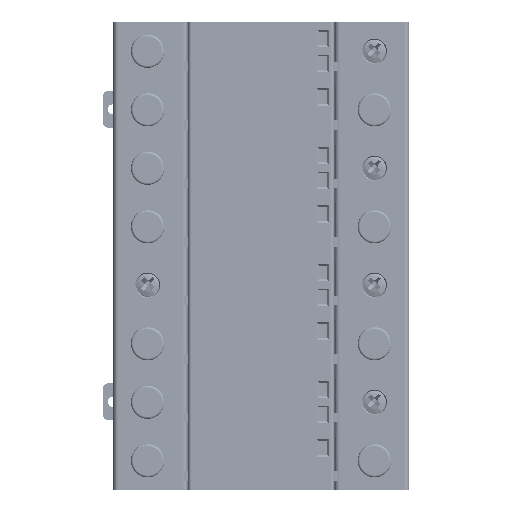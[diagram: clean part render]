
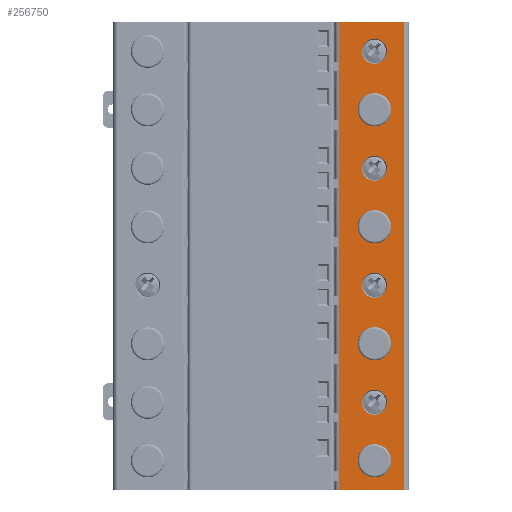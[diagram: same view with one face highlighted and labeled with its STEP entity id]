
A CAD part, front view. The second image highlights one B-rep face of the part: STEP entity #256750.
In plain terms, the highlighted planar face has unit normal (0, -1, 0).
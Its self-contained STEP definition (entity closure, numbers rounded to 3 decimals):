
#18020=DIRECTION('',(-1.,0.,0.));
#18021=VECTOR('',#18020,19.9);
#18022=CARTESIAN_POINT('',(89.5,0.,-144.4));
#18023=LINE('',#18022,#18021);
#18024=DIRECTION('',(1.,0.,0.));
#18025=VECTOR('',#18024,19.9);
#18026=CARTESIAN_POINT('',(69.6,0.,-0.4));
#18027=LINE('',#18026,#18025);
#18028=CARTESIAN_POINT('',(80.4,0.,-117.4));
#18029=DIRECTION('',(0.,-1.,0.));
#18030=DIRECTION('',(1.,0.,0.));
#18031=AXIS2_PLACEMENT_3D('',#18028,#18029,#18030);
#18033=CARTESIAN_POINT('',(80.4,0.,-117.4));
#18034=DIRECTION('',(0.,-1.,0.));
#18035=DIRECTION('',(-1.,0.,0.));
#18036=AXIS2_PLACEMENT_3D('',#18033,#18034,#18035);
#18038=CARTESIAN_POINT('',(80.4,0.,-81.4));
#18039=DIRECTION('',(0.,-1.,0.));
#18040=DIRECTION('',(1.,0.,0.));
#18041=AXIS2_PLACEMENT_3D('',#18038,#18039,#18040);
#18043=CARTESIAN_POINT('',(80.4,0.,-81.4));
#18044=DIRECTION('',(0.,-1.,0.));
#18045=DIRECTION('',(-1.,0.,0.));
#18046=AXIS2_PLACEMENT_3D('',#18043,#18044,#18045);
#18048=CARTESIAN_POINT('',(80.4,0.,-45.4));
#18049=DIRECTION('',(0.,-1.,0.));
#18050=DIRECTION('',(1.,0.,0.));
#18051=AXIS2_PLACEMENT_3D('',#18048,#18049,#18050);
#18053=CARTESIAN_POINT('',(80.4,0.,-45.4));
#18054=DIRECTION('',(0.,-1.,0.));
#18055=DIRECTION('',(-1.,0.,0.));
#18056=AXIS2_PLACEMENT_3D('',#18053,#18054,#18055);
#18058=CARTESIAN_POINT('',(80.4,0.,-9.4));
#18059=DIRECTION('',(0.,-1.,0.));
#18060=DIRECTION('',(1.,0.,0.));
#18061=AXIS2_PLACEMENT_3D('',#18058,#18059,#18060);
#18063=CARTESIAN_POINT('',(80.4,0.,-9.4));
#18064=DIRECTION('',(0.,-1.,0.));
#18065=DIRECTION('',(-1.,0.,0.));
#18066=AXIS2_PLACEMENT_3D('',#18063,#18064,#18065);
#18068=CARTESIAN_POINT('',(80.4,0.,-27.4));
#18069=DIRECTION('',(0.,1.,0.));
#18070=DIRECTION('',(1.,0.,0.));
#18071=AXIS2_PLACEMENT_3D('',#18068,#18069,#18070);
#18073=CARTESIAN_POINT('',(80.4,0.,-27.4));
#18074=DIRECTION('',(0.,1.,0.));
#18075=DIRECTION('',(-1.,0.,0.));
#18076=AXIS2_PLACEMENT_3D('',#18073,#18074,#18075);
#18078=CARTESIAN_POINT('',(80.4,0.,-63.4));
#18079=DIRECTION('',(0.,1.,0.));
#18080=DIRECTION('',(1.,0.,0.));
#18081=AXIS2_PLACEMENT_3D('',#18078,#18079,#18080);
#18083=CARTESIAN_POINT('',(80.4,0.,-63.4));
#18084=DIRECTION('',(0.,1.,0.));
#18085=DIRECTION('',(-1.,0.,0.));
#18086=AXIS2_PLACEMENT_3D('',#18083,#18084,#18085);
#18088=CARTESIAN_POINT('',(80.4,0.,-99.4));
#18089=DIRECTION('',(0.,1.,0.));
#18090=DIRECTION('',(1.,0.,0.));
#18091=AXIS2_PLACEMENT_3D('',#18088,#18089,#18090);
#18093=CARTESIAN_POINT('',(80.4,0.,-99.4));
#18094=DIRECTION('',(0.,1.,0.));
#18095=DIRECTION('',(-1.,0.,0.));
#18096=AXIS2_PLACEMENT_3D('',#18093,#18094,#18095);
#18098=CARTESIAN_POINT('',(80.4,0.,-135.4));
#18099=DIRECTION('',(0.,1.,0.));
#18100=DIRECTION('',(1.,0.,0.));
#18101=AXIS2_PLACEMENT_3D('',#18098,#18099,#18100);
#18103=CARTESIAN_POINT('',(80.4,0.,-135.4));
#18104=DIRECTION('',(0.,1.,0.));
#18105=DIRECTION('',(-1.,0.,0.));
#18106=AXIS2_PLACEMENT_3D('',#18103,#18104,#18105);
#18112=DIRECTION('',(0.,0.,1.));
#18113=VECTOR('',#18112,144.);
#18114=CARTESIAN_POINT('',(89.5,0.,-144.4));
#18115=LINE('',#18114,#18113);
#18236=DIRECTION('',(0.,0.,-1.));
#18237=VECTOR('',#18236,144.);
#18238=CARTESIAN_POINT('',(69.6,0.,-0.4));
#18239=LINE('',#18238,#18237);
#183218=CARTESIAN_POINT('',(89.5,0.,-0.4));
#183219=VERTEX_POINT('',#183218);
#184567=CARTESIAN_POINT('',(84.25,0.,-9.4));
#184569=VERTEX_POINT('',#184567);
#184574=CARTESIAN_POINT('',(76.55,0.,-9.4));
#184575=VERTEX_POINT('',#184574);
#185257=CARTESIAN_POINT('',(69.6,0.,-0.4));
#185259=VERTEX_POINT('',#185257);
#198457=CARTESIAN_POINT('',(76.55,0.,-45.4));
#198458=VERTEX_POINT('',#198457);
#198459=CARTESIAN_POINT('',(84.25,0.,-45.4));
#198460=VERTEX_POINT('',#198459);
#202805=CARTESIAN_POINT('',(76.55,0.,-81.4));
#202806=VERTEX_POINT('',#202805);
#202807=CARTESIAN_POINT('',(84.25,0.,-81.4));
#202808=VERTEX_POINT('',#202807);
#207157=CARTESIAN_POINT('',(76.55,0.,-117.4));
#207158=VERTEX_POINT('',#207157);
#207159=CARTESIAN_POINT('',(84.25,0.,-117.4));
#207160=VERTEX_POINT('',#207159);
#208767=CARTESIAN_POINT('',(89.5,0.,-144.4));
#208769=VERTEX_POINT('',#208767);
#209802=CARTESIAN_POINT('',(69.6,0.,-144.4));
#209804=VERTEX_POINT('',#209802);
#235181=CARTESIAN_POINT('',(85.55,0.,-27.4));
#235182=CARTESIAN_POINT('',(75.25,0.,-27.4));
#235183=VERTEX_POINT('',#235181);
#235184=VERTEX_POINT('',#235182);
#235268=CARTESIAN_POINT('',(85.55,0.,-63.4));
#235269=CARTESIAN_POINT('',(75.25,0.,-63.4));
#235270=VERTEX_POINT('',#235268);
#235271=VERTEX_POINT('',#235269);
#235355=CARTESIAN_POINT('',(85.55,0.,-99.4));
#235356=CARTESIAN_POINT('',(75.25,0.,-99.4));
#235357=VERTEX_POINT('',#235355);
#235358=VERTEX_POINT('',#235356);
#235442=CARTESIAN_POINT('',(85.55,0.,-135.4));
#235443=CARTESIAN_POINT('',(75.25,0.,-135.4));
#235444=VERTEX_POINT('',#235442);
#235445=VERTEX_POINT('',#235443);
#256690=CARTESIAN_POINT('',(0.,0.,-18.4));
#256691=DIRECTION('',(0.,-1.,0.));
#256692=DIRECTION('',(1.,0.,0.));
#256693=AXIS2_PLACEMENT_3D('',#256690,#256691,#256692);
#256694=PLANE('',#256693);
#256696=ORIENTED_EDGE('',*,*,#256695,.F.);
#256697=ORIENTED_EDGE('',*,*,#241294,.T.);
#256699=ORIENTED_EDGE('',*,*,#256698,.F.);
#256700=ORIENTED_EDGE('',*,*,#243427,.T.);
#256701=EDGE_LOOP('',(#256696,#256697,#256699,#256700));
#256702=FACE_OUTER_BOUND('',#256701,.F.);
#256704=ORIENTED_EDGE('',*,*,#256703,.T.);
#256706=ORIENTED_EDGE('',*,*,#256705,.T.);
#256707=EDGE_LOOP('',(#256704,#256706));
#256708=FACE_BOUND('',#256707,.F.);
#256710=ORIENTED_EDGE('',*,*,#256709,.T.);
#256712=ORIENTED_EDGE('',*,*,#256711,.T.);
#256713=EDGE_LOOP('',(#256710,#256712));
#256714=FACE_BOUND('',#256713,.F.);
#256716=ORIENTED_EDGE('',*,*,#256715,.T.);
#256718=ORIENTED_EDGE('',*,*,#256717,.T.);
#256719=EDGE_LOOP('',(#256716,#256718));
#256720=FACE_BOUND('',#256719,.F.);
#256722=ORIENTED_EDGE('',*,*,#256721,.T.);
#256723=ORIENTED_EDGE('',*,*,#256679,.T.);
#256724=EDGE_LOOP('',(#256722,#256723));
#256725=FACE_BOUND('',#256724,.F.);
#256727=ORIENTED_EDGE('',*,*,#256726,.F.);
#256729=ORIENTED_EDGE('',*,*,#256728,.F.);
#256730=EDGE_LOOP('',(#256727,#256729));
#256731=FACE_BOUND('',#256730,.F.);
#256733=ORIENTED_EDGE('',*,*,#256732,.F.);
#256735=ORIENTED_EDGE('',*,*,#256734,.F.);
#256736=EDGE_LOOP('',(#256733,#256735));
#256737=FACE_BOUND('',#256736,.F.);
#256739=ORIENTED_EDGE('',*,*,#256738,.F.);
#256741=ORIENTED_EDGE('',*,*,#256740,.F.);
#256742=EDGE_LOOP('',(#256739,#256741));
#256743=FACE_BOUND('',#256742,.F.);
#256745=ORIENTED_EDGE('',*,*,#256744,.F.);
#256747=ORIENTED_EDGE('',*,*,#256746,.F.);
#256748=EDGE_LOOP('',(#256745,#256747));
#256749=FACE_BOUND('',#256748,.F.);
#256750=ADVANCED_FACE('',(#256702,#256708,#256714,#256720,#256725,#256731,
#256737,#256743,#256749),#256694,.T.);
#18032=CIRCLE('',#18031,3.85);
#18037=CIRCLE('',#18036,3.85);
#18042=CIRCLE('',#18041,3.85);
#18047=CIRCLE('',#18046,3.85);
#18052=CIRCLE('',#18051,3.85);
#18057=CIRCLE('',#18056,3.85);
#18062=CIRCLE('',#18061,3.85);
#18067=CIRCLE('',#18066,3.85);
#18072=CIRCLE('',#18071,5.15);
#18077=CIRCLE('',#18076,5.15);
#18082=CIRCLE('',#18081,5.15);
#18087=CIRCLE('',#18086,5.15);
#18092=CIRCLE('',#18091,5.15);
#18097=CIRCLE('',#18096,5.15);
#18102=CIRCLE('',#18101,5.15);
#18107=CIRCLE('',#18106,5.15);
#241294=EDGE_CURVE('',#208769,#209804,#18023,.T.);
#243427=EDGE_CURVE('',#185259,#183219,#18027,.T.);
#256679=EDGE_CURVE('',#184575,#184569,#18067,.T.);
#256695=EDGE_CURVE('',#208769,#183219,#18115,.T.);
#256698=EDGE_CURVE('',#185259,#209804,#18239,.T.);
#256703=EDGE_CURVE('',#207160,#207158,#18032,.T.);
#256705=EDGE_CURVE('',#207158,#207160,#18037,.T.);
#256709=EDGE_CURVE('',#202808,#202806,#18042,.T.);
#256711=EDGE_CURVE('',#202806,#202808,#18047,.T.);
#256715=EDGE_CURVE('',#198460,#198458,#18052,.T.);
#256717=EDGE_CURVE('',#198458,#198460,#18057,.T.);
#256721=EDGE_CURVE('',#184569,#184575,#18062,.T.);
#256726=EDGE_CURVE('',#235183,#235184,#18072,.T.);
#256728=EDGE_CURVE('',#235184,#235183,#18077,.T.);
#256732=EDGE_CURVE('',#235270,#235271,#18082,.T.);
#256734=EDGE_CURVE('',#235271,#235270,#18087,.T.);
#256738=EDGE_CURVE('',#235357,#235358,#18092,.T.);
#256740=EDGE_CURVE('',#235358,#235357,#18097,.T.);
#256744=EDGE_CURVE('',#235444,#235445,#18102,.T.);
#256746=EDGE_CURVE('',#235445,#235444,#18107,.T.);
